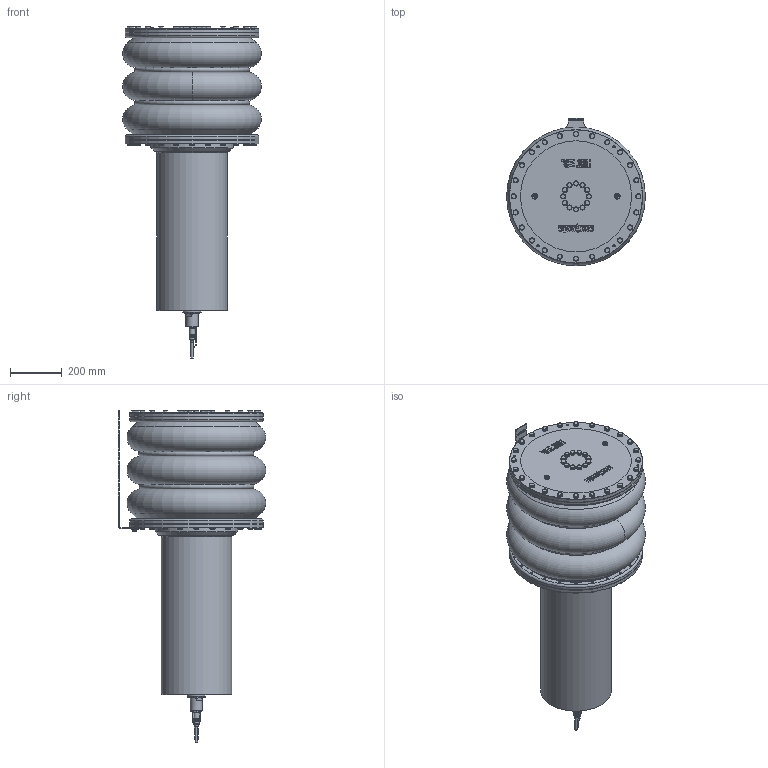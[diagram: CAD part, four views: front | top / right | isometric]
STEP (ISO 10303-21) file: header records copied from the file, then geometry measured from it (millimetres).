
FILE_DESCRIPTION(/* description */ ('Bellows Compensator AISI316 - 50L, incl. low level indicator, 6pol micro'),/* implementation_level */ '2;1');
FILE_NAME(/* name */ 'Bellows Compensator AISI316 - 50L, incl. low level indicator, 6pol micro (SA-0324-00010).stp',/* time_stamp */ '2024-12-16T14:53:12+01:00',/* author */ ('SHU'),/* organization */ ('Seatools'),/* preprocessor_version */ 'ST-DEVELOPER v19.2',/* originating_system */ 'Autodesk Inventor 2023',/* authorisation */ '');
FILE_SCHEMA (('AUTOMOTIVE_DESIGN { 1 0 10303 214 3 1 1 }'));
Length unit declared in the file: millimetre
Products named in the file (1): SA-0324-00010
Bounding box: 536.92 x 570.96 x 1285.16 mm (x, y, z)
Volume: 128629790.6 mm3; surface area: 3431442.8 mm2
Topology: 1 solids, 15 shells, 3345 faces, 8322 edges, 5342 vertices
Faces by surface type: plane 1536, bspline 800, cone 532, cylinder 440, torus 36, sphere 1
Full cylindrical faces by diameter (mm): 3 x1, 3.242 x10, 4.5 x4, 5.9 x2, 6.7 x6, 8 x4, 8.376 x74, 9 x1, 10 x6, 11.445 x2, 13 x1, 14.55 x1, 15.4 x62, 15.875 x1, 16.129 x1, 18.631 x2, 20 x62, 21 x2, 21.844 x1, 24.117 x1, 25 x1, 28 x2, 30 x2, 30.291 x1, 35 x2, 36 x1, 45 x1, 47 x1, 70 x1, 71 x1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
Entity records: 107436 total; most frequent: CARTESIAN_POINT 30980, ORIENTED_EDGE 16554, DIRECTION 12454, EDGE_CURVE 8277, VERTEX_POINT 5342, LINE 4230, VECTOR 4230, AXIS2_PLACEMENT_3D 4112
